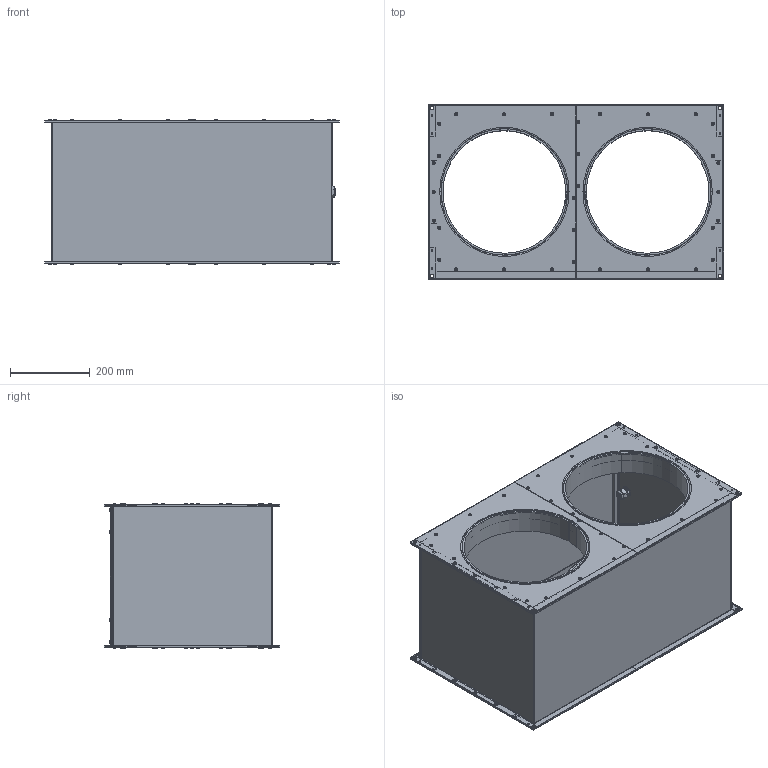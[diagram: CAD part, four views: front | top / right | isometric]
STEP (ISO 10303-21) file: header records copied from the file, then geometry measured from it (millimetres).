
FILE_DESCRIPTION (( 'STEP AP203' ), '1' );
FILE_NAME ('136748-00_EMKI7040EC21.STEP', '2016-04-20T06:16:33', ( '' ), ( '' ), 'SwSTEP 2.0', 'SolidWorks 2012', '' );
FILE_SCHEMA (( 'CONFIG_CONTROL_DESIGN' ));
Length unit declared in the file: millimetre
Products named in the file (1): 136748-00_EMKI7040EC21
Bounding box: 738.5 x 438 x 362.2 mm (x, y, z)
Surface area: 3187775.2 mm2 (no closed solid volume)
Topology: 0 solids, 144 shells, 852 faces, 2918 edges, 2135 vertices
Faces by surface type: cylinder 435, plane 229, torus 184, cone 4
Entity records: 33073 total; most frequent: CARTESIAN_POINT 7028, DIRECTION 6071, ORIENTED_EDGE 4262, EDGE_CURVE 2918, AXIS2_PLACEMENT_3D 2494, VERTEX_POINT 2135, CIRCLE 1641, EDGE_LOOP 1118
